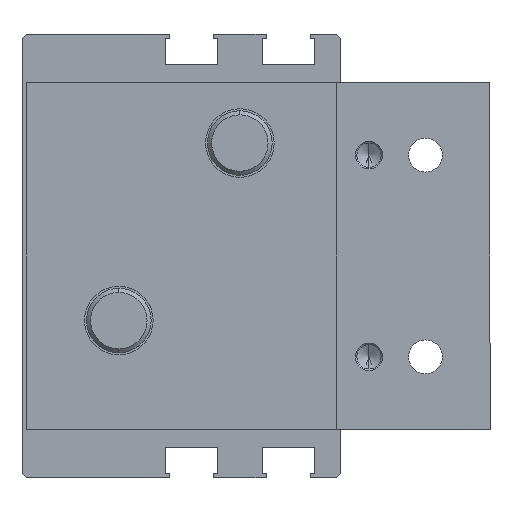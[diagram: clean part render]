
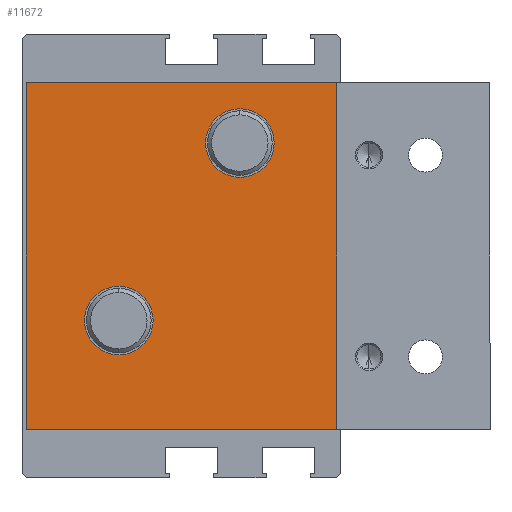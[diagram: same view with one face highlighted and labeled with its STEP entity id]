
A CAD part, left-side view. The second image highlights one B-rep face of the part: STEP entity #11672.
In plain terms, the highlighted planar face has unit normal (-1, 0, 0) as drawn and (1, 0, 0) by its records, which use the part's own axes.
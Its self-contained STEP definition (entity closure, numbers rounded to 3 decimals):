
#419 = VERTEX_POINT ( 'NONE', #30316 ) ;
#639 = VERTEX_POINT ( 'NONE', #3412 ) ;
#785 = CARTESIAN_POINT ( 'NONE',  ( 13., 57.5, 21.5 ) ) ;
#1116 = CARTESIAN_POINT ( 'NONE',  ( 13., 46., 8. ) ) ;
#2002 = ORIENTED_EDGE ( 'NONE', *, *, #6307, .T. ) ;
#2314 = AXIS2_PLACEMENT_3D ( 'NONE', #15470, #40894, #19179 ) ;
#2341 = ORIENTED_EDGE ( 'NONE', *, *, #33859, .T. ) ;
#2399 = CARTESIAN_POINT ( 'NONE',  ( 13., 19., 21.5 ) ) ;
#3412 = CARTESIAN_POINT ( 'NONE',  ( 13., 46., 12.25 ) ) ;
#3564 = VECTOR ( 'NONE', #10196, 1000. ) ;
#3959 = ORIENTED_EDGE ( 'NONE', *, *, #20074, .T. ) ;
#4837 = DIRECTION ( 'NONE',  ( 0., 0., -1. ) ) ;
#5560 = PLANE ( 'NONE',  #6116 ) ;
#6116 = AXIS2_PLACEMENT_3D ( 'NONE', #20200, #31168, #9253 ) ;
#6307 = EDGE_CURVE ( 'NONE', #639, #28707, #37552, .T. ) ;
#7118 = DIRECTION ( 'NONE',  ( 0., 1., 0. ) ) ;
#8210 = VERTEX_POINT ( 'NONE', #785 ) ;
#9253 = DIRECTION ( 'NONE',  ( 0., 0., 1. ) ) ;
#9747 = EDGE_CURVE ( 'NONE', #419, #24249, #13003, .T. ) ;
#10196 = DIRECTION ( 'NONE',  ( 0., 0., 1. ) ) ;
#11672 = ADVANCED_FACE ( 'NONE', ( #15226, #33420, #23751 ), #5560, .F. ) ;
#12805 = EDGE_LOOP ( 'NONE', ( #32699, #13592 ) ) ;
#13003 = CIRCLE ( 'NONE', #42266, 4.25 ) ;
#13063 = AXIS2_PLACEMENT_3D ( 'NONE', #1116, #26791, #4837 ) ;
#13563 = DIRECTION ( 'NONE',  ( -1., 0., 0. ) ) ;
#13592 = ORIENTED_EDGE ( 'NONE', *, *, #9747, .T. ) ;
#13615 = LINE ( 'NONE', #2399, #15912 ) ;
#13645 = VERTEX_POINT ( 'NONE', #17355 ) ;
#14216 = CARTESIAN_POINT ( 'NONE',  ( 13., 57.5, 21.5 ) ) ;
#15226 = FACE_OUTER_BOUND ( 'NONE', #44658, .T. ) ;
#15345 = EDGE_CURVE ( 'NONE', #13645, #8210, #37243, .T. ) ;
#15470 = CARTESIAN_POINT ( 'NONE',  ( 13., 31., -14. ) ) ;
#15799 = ORIENTED_EDGE ( 'NONE', *, *, #41736, .F. ) ;
#15912 = VECTOR ( 'NONE', #28031, 1000. ) ;
#16896 = DIRECTION ( 'NONE',  ( -1., 0., 0. ) ) ;
#17355 = CARTESIAN_POINT ( 'NONE',  ( 13., 19., 21.5 ) ) ;
#18798 = EDGE_CURVE ( 'NONE', #22463, #19279, #47268, .T. ) ;
#19179 = DIRECTION ( 'NONE',  ( 0., 0., -1. ) ) ;
#19279 = VERTEX_POINT ( 'NONE', #36554 ) ;
#20074 = EDGE_CURVE ( 'NONE', #28707, #639, #33104, .T. ) ;
#20200 = CARTESIAN_POINT ( 'NONE',  ( 13., 57.5, 21.5 ) ) ;
#21272 = CARTESIAN_POINT ( 'NONE',  ( 13., 57.5, 21.5 ) ) ;
#21719 = DIRECTION ( 'NONE',  ( 0., 1., 0. ) ) ;
#21977 = LINE ( 'NONE', #21272, #3564 ) ;
#22463 = VERTEX_POINT ( 'NONE', #45340 ) ;
#23751 = FACE_BOUND ( 'NONE', #12805, .T. ) ;
#24249 = VERTEX_POINT ( 'NONE', #43823 ) ;
#25226 = CARTESIAN_POINT ( 'NONE',  ( 13., 57.5, -21.5 ) ) ;
#26603 = EDGE_CURVE ( 'NONE', #24249, #419, #34022, .T. ) ;
#26791 = DIRECTION ( 'NONE',  ( -1., 0., 0. ) ) ;
#27261 = ORIENTED_EDGE ( 'NONE', *, *, #15345, .F. ) ;
#28031 = DIRECTION ( 'NONE',  ( 0., 0., 1. ) ) ;
#28707 = VERTEX_POINT ( 'NONE', #31089 ) ;
#28768 = VECTOR ( 'NONE', #21719, 1000. ) ;
#30316 = CARTESIAN_POINT ( 'NONE',  ( 13., 31., -9.75 ) ) ;
#31089 = CARTESIAN_POINT ( 'NONE',  ( 13., 46., 3.75 ) ) ;
#31168 = DIRECTION ( 'NONE',  ( -1., 0., 0. ) ) ;
#32699 = ORIENTED_EDGE ( 'NONE', *, *, #26603, .T. ) ;
#33104 = CIRCLE ( 'NONE', #13063, 4.25 ) ;
#33420 = FACE_BOUND ( 'NONE', #43435, .T. ) ;
#33859 = EDGE_CURVE ( 'NONE', #19279, #8210, #21977, .T. ) ;
#34022 = CIRCLE ( 'NONE', #2314, 4.25 ) ;
#35341 = CARTESIAN_POINT ( 'NONE',  ( 13., 46., 8. ) ) ;
#36554 = CARTESIAN_POINT ( 'NONE',  ( 13., 57.5, -21.5 ) ) ;
#36868 = ORIENTED_EDGE ( 'NONE', *, *, #18798, .T. ) ;
#37243 = LINE ( 'NONE', #14216, #28768 ) ;
#37552 = CIRCLE ( 'NONE', #44383, 4.25 ) ;
#38667 = CARTESIAN_POINT ( 'NONE',  ( 13., 31., -14. ) ) ;
#38999 = DIRECTION ( 'NONE',  ( 0., 0., -1. ) ) ;
#39937 = VECTOR ( 'NONE', #7118, 1000. ) ;
#40894 = DIRECTION ( 'NONE',  ( -1., 0., 0. ) ) ;
#41736 = EDGE_CURVE ( 'NONE', #22463, #13645, #13615, .T. ) ;
#42266 = AXIS2_PLACEMENT_3D ( 'NONE', #38667, #16896, #42282 ) ;
#42282 = DIRECTION ( 'NONE',  ( 0., 0., -1. ) ) ;
#43435 = EDGE_LOOP ( 'NONE', ( #3959, #2002 ) ) ;
#43823 = CARTESIAN_POINT ( 'NONE',  ( 13., 31., -18.25 ) ) ;
#44383 = AXIS2_PLACEMENT_3D ( 'NONE', #35341, #13563, #38999 ) ;
#44658 = EDGE_LOOP ( 'NONE', ( #2341, #27261, #15799, #36868 ) ) ;
#45340 = CARTESIAN_POINT ( 'NONE',  ( 13., 19., -21.5 ) ) ;
#47268 = LINE ( 'NONE', #25226, #39937 ) ;
